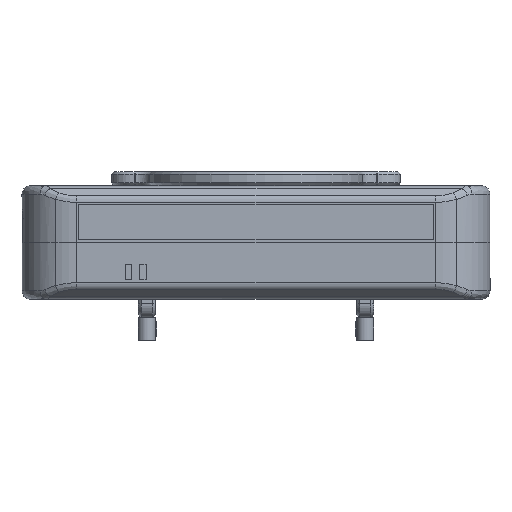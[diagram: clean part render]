
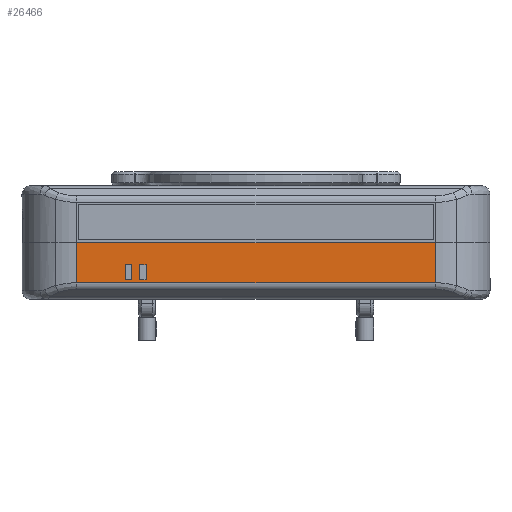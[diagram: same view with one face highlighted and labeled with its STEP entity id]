
A CAD part, front view. The second image highlights one B-rep face of the part: STEP entity #26466.
In plain terms, the highlighted planar face has unit normal (0, -1, 0).
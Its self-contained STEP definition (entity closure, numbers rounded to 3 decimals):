
#334 = VERTEX_POINT ( 'NONE', #10847 ) ;
#464 = VERTEX_POINT ( 'NONE', #6412 ) ;
#645 = LINE ( 'NONE', #10592, #25687 ) ;
#1100 = EDGE_CURVE ( 'NONE', #4785, #334, #24860, .T. ) ;
#1123 = LINE ( 'NONE', #6841, #26484 ) ;
#1264 = ORIENTED_EDGE ( 'NONE', *, *, #23891, .T. ) ;
#1979 = VERTEX_POINT ( 'NONE', #2539 ) ;
#2193 = VERTEX_POINT ( 'NONE', #25192 ) ;
#2194 = VERTEX_POINT ( 'NONE', #16583 ) ;
#2539 = CARTESIAN_POINT ( 'NONE',  ( -61.07, -128.937, 224.432 ) ) ;
#2562 = EDGE_CURVE ( 'NONE', #2193, #19921, #1123, .T. ) ;
#2665 = ORIENTED_EDGE ( 'NONE', *, *, #22297, .T. ) ;
#2804 = ORIENTED_EDGE ( 'NONE', *, *, #5406, .T. ) ;
#2854 = EDGE_CURVE ( 'NONE', #11357, #13729, #10911, .T. ) ;
#4140 = VECTOR ( 'NONE', #27010, 1000. ) ;
#4309 = DIRECTION ( 'NONE',  ( 0., 0., -1. ) ) ;
#4785 = VERTEX_POINT ( 'NONE', #25095 ) ;
#5135 = DIRECTION ( 'NONE',  ( 1., 0., 0. ) ) ;
#5406 = EDGE_CURVE ( 'NONE', #464, #17402, #12803, .T. ) ;
#5680 = EDGE_CURVE ( 'NONE', #334, #11357, #645, .T. ) ;
#5789 = DIRECTION ( 'NONE',  ( 0., -1., 0. ) ) ;
#6412 = CARTESIAN_POINT ( 'NONE',  ( -80.58, -128.937, 237.615 ) ) ;
#6841 = CARTESIAN_POINT ( 'NONE',  ( 45.911, -128.937, 237.615 ) ) ;
#6864 = DIRECTION ( 'NONE',  ( -1., 0., 0. ) ) ;
#7366 = CARTESIAN_POINT ( 'NONE',  ( -80.58, -128.937, 223.432 ) ) ;
#7661 = CARTESIAN_POINT ( 'NONE',  ( -56.07, -128.937, 222.123 ) ) ;
#8079 = PLANE ( 'NONE',  #8293 ) ;
#8098 = DIRECTION ( 'NONE',  ( 0., 0., 1. ) ) ;
#8293 = AXIS2_PLACEMENT_3D ( 'NONE', #18729, #5789, #23103 ) ;
#8809 = CARTESIAN_POINT ( 'NONE',  ( -56.07, -128.937, 224.432 ) ) ;
#9024 = ORIENTED_EDGE ( 'NONE', *, *, #2854, .T. ) ;
#9031 = LINE ( 'NONE', #26151, #27645 ) ;
#9102 = CARTESIAN_POINT ( 'NONE',  ( -63.39, -128.937, 229.752 ) ) ;
#9358 = VECTOR ( 'NONE', #6864, 1000. ) ;
#9666 = LINE ( 'NONE', #26501, #21862 ) ;
#10100 = EDGE_LOOP ( 'NONE', ( #14192, #1264, #2665, #18068 ) ) ;
#10353 = CARTESIAN_POINT ( 'NONE',  ( 65.166, -128.937, 229.752 ) ) ;
#10425 = VERTEX_POINT ( 'NONE', #27666 ) ;
#10553 = CARTESIAN_POINT ( 'NONE',  ( -61.07, -128.937, 222.123 ) ) ;
#10592 = CARTESIAN_POINT ( 'NONE',  ( 65.166, -128.937, 229.752 ) ) ;
#10642 = ORIENTED_EDGE ( 'NONE', *, *, #24146, .F. ) ;
#10847 = CARTESIAN_POINT ( 'NONE',  ( -58.39, -128.937, 229.752 ) ) ;
#10911 = LINE ( 'NONE', #7661, #4140 ) ;
#11357 = VERTEX_POINT ( 'NONE', #24026 ) ;
#12647 = FACE_BOUND ( 'NONE', #21267, .T. ) ;
#12803 = LINE ( 'NONE', #24605, #26356 ) ;
#13671 = DIRECTION ( 'NONE',  ( 0., 0., 1. ) ) ;
#13676 = FACE_OUTER_BOUND ( 'NONE', #14513, .T. ) ;
#13729 = VERTEX_POINT ( 'NONE', #8809 ) ;
#14068 = LINE ( 'NONE', #10353, #23561 ) ;
#14192 = ORIENTED_EDGE ( 'NONE', *, *, #20672, .T. ) ;
#14336 = EDGE_CURVE ( 'NONE', #17402, #19921, #9031, .T. ) ;
#14371 = EDGE_CURVE ( 'NONE', #1979, #10425, #20872, .T. ) ;
#14513 = EDGE_LOOP ( 'NONE', ( #2804, #22158, #22807, #10642 ) ) ;
#14915 = CARTESIAN_POINT ( 'NONE',  ( 45.911, -128.937, 223.432 ) ) ;
#15633 = DIRECTION ( 'NONE',  ( 1., 0., 0. ) ) ;
#15838 = VECTOR ( 'NONE', #4309, 1000. ) ;
#16529 = LINE ( 'NONE', #21265, #21939 ) ;
#16583 = CARTESIAN_POINT ( 'NONE',  ( -61.07, -128.937, 229.752 ) ) ;
#16732 = VECTOR ( 'NONE', #8098, 1000. ) ;
#17402 = VERTEX_POINT ( 'NONE', #7366 ) ;
#17878 = LINE ( 'NONE', #10553, #15838 ) ;
#18006 = ORIENTED_EDGE ( 'NONE', *, *, #22017, .T. ) ;
#18068 = ORIENTED_EDGE ( 'NONE', *, *, #14371, .T. ) ;
#18729 = CARTESIAN_POINT ( 'NONE',  ( 65.166, -128.937, 222.123 ) ) ;
#19132 = DIRECTION ( 'NONE',  ( 1., 0., 0. ) ) ;
#19183 = VERTEX_POINT ( 'NONE', #9102 ) ;
#19742 = ORIENTED_EDGE ( 'NONE', *, *, #1100, .T. ) ;
#19921 = VERTEX_POINT ( 'NONE', #14915 ) ;
#20672 = EDGE_CURVE ( 'NONE', #10425, #19183, #26711, .T. ) ;
#20872 = LINE ( 'NONE', #21900, #9358 ) ;
#21265 = CARTESIAN_POINT ( 'NONE',  ( 65.166, -128.937, 224.432 ) ) ;
#21267 = EDGE_LOOP ( 'NONE', ( #27194, #9024, #18006, #19742 ) ) ;
#21862 = VECTOR ( 'NONE', #5135, 1000. ) ;
#21900 = CARTESIAN_POINT ( 'NONE',  ( 65.166, -128.937, 224.432 ) ) ;
#21939 = VECTOR ( 'NONE', #25441, 1000. ) ;
#22017 = EDGE_CURVE ( 'NONE', #13729, #4785, #16529, .T. ) ;
#22158 = ORIENTED_EDGE ( 'NONE', *, *, #14336, .T. ) ;
#22297 = EDGE_CURVE ( 'NONE', #2194, #1979, #17878, .T. ) ;
#22807 = ORIENTED_EDGE ( 'NONE', *, *, #2562, .F. ) ;
#23103 = DIRECTION ( 'NONE',  ( 0., 0., 1. ) ) ;
#23561 = VECTOR ( 'NONE', #19132, 1000. ) ;
#23891 = EDGE_CURVE ( 'NONE', #19183, #2194, #14068, .T. ) ;
#24026 = CARTESIAN_POINT ( 'NONE',  ( -56.07, -128.937, 229.752 ) ) ;
#24146 = EDGE_CURVE ( 'NONE', #464, #2193, #9666, .T. ) ;
#24519 = FACE_BOUND ( 'NONE', #10100, .T. ) ;
#24605 = CARTESIAN_POINT ( 'NONE',  ( -80.58, -128.937, 222.123 ) ) ;
#24701 = DIRECTION ( 'NONE',  ( 0., 0., -1. ) ) ;
#24860 = LINE ( 'NONE', #27543, #16732 ) ;
#25095 = CARTESIAN_POINT ( 'NONE',  ( -58.39, -128.937, 224.432 ) ) ;
#25192 = CARTESIAN_POINT ( 'NONE',  ( 45.911, -128.937, 237.615 ) ) ;
#25441 = DIRECTION ( 'NONE',  ( -1., 0., 0. ) ) ;
#25687 = VECTOR ( 'NONE', #25726, 1000. ) ;
#25726 = DIRECTION ( 'NONE',  ( 1., 0., 0. ) ) ;
#26130 = DIRECTION ( 'NONE',  ( 0., 0., -1. ) ) ;
#26151 = CARTESIAN_POINT ( 'NONE',  ( 65.166, -128.937, 223.432 ) ) ;
#26356 = VECTOR ( 'NONE', #24701, 1000. ) ;
#26466 = ADVANCED_FACE ( 'NONE', ( #13676, #12647, #24519 ), #8079, .T. ) ;
#26484 = VECTOR ( 'NONE', #26130, 1000. ) ;
#26501 = CARTESIAN_POINT ( 'NONE',  ( -15.597, -128.937, 237.615 ) ) ;
#26711 = LINE ( 'NONE', #26712, #27739 ) ;
#26712 = CARTESIAN_POINT ( 'NONE',  ( -63.39, -128.937, 222.123 ) ) ;
#27010 = DIRECTION ( 'NONE',  ( 0., 0., -1. ) ) ;
#27194 = ORIENTED_EDGE ( 'NONE', *, *, #5680, .T. ) ;
#27543 = CARTESIAN_POINT ( 'NONE',  ( -58.39, -128.937, 222.123 ) ) ;
#27645 = VECTOR ( 'NONE', #15633, 1000. ) ;
#27666 = CARTESIAN_POINT ( 'NONE',  ( -63.39, -128.937, 224.432 ) ) ;
#27739 = VECTOR ( 'NONE', #13671, 1000. ) ;
